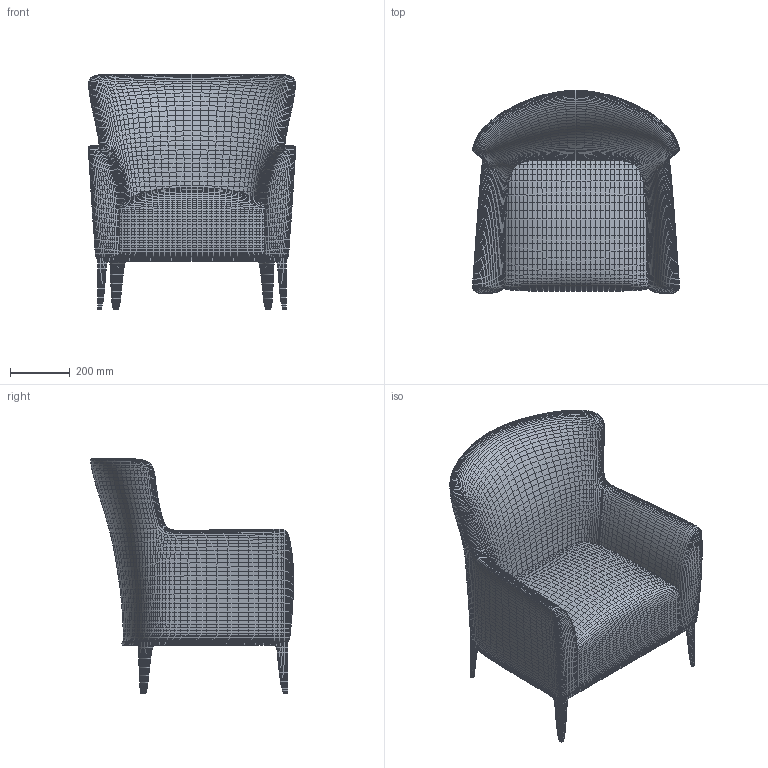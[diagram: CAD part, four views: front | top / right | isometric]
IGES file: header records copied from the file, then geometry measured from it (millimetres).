
Global section: file name: C:\Users\alberto\Dropbox\POLIFORM 3D model archive share\3dmodels repository\Poliform GENTLEMAN SINGLE armchair\Poliform GENTLEMAN SINGLE armchair.igs; native system: Rhinoceros ( May 22 2017 ); preprocessor: Trout Lake IGES 012 May 22 2017; date: 190520.115932; units: millimetre
Bounding box: 691.99 x 679.67 x 789.18 mm (x, y, z)
Surface area: 2733972.9 mm2 (no closed solid volume)
Topology: 0 solids, 0 shells, 26296 faces, 105162 edges, 105162 vertices
Faces by surface type: bspline 26296
